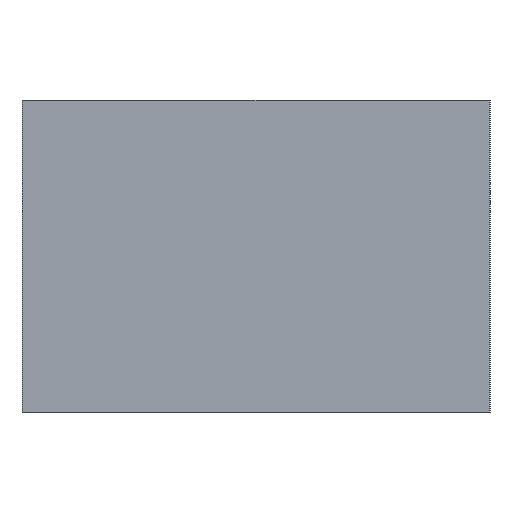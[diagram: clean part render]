
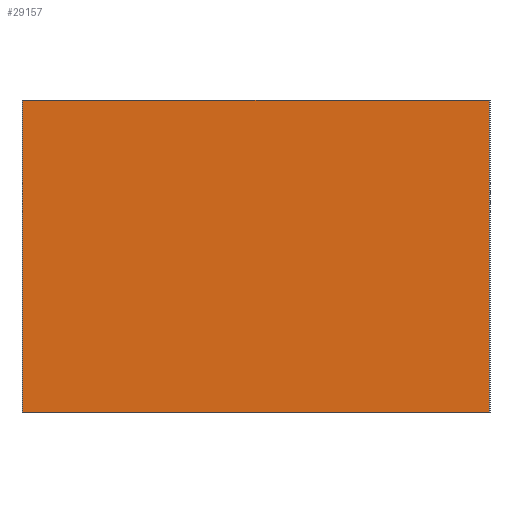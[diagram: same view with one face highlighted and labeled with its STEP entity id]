
A CAD part, front view. The second image highlights one B-rep face of the part: STEP entity #29157.
In plain terms, the highlighted planar face has unit normal (0, -1, 0).
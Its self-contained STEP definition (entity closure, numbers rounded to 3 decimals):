
#450 = CARTESIAN_POINT ( 'NONE',  ( 379.147, 239.127, 100. ) ) ;
#3054 = DIRECTION ( 'NONE',  ( 0., 1., 0. ) ) ;
#5247 = EDGE_CURVE ( 'NONE', #28114, #70171, #15248, .T. ) ;
#8043 = AXIS2_PLACEMENT_3D ( 'NONE', #68579, #3054, #29346 ) ;
#10030 = EDGE_CURVE ( 'NONE', #21948, #59930, #46235, .T. ) ;
#13458 = VECTOR ( 'NONE', #20156, 1000. ) ;
#14491 = DIRECTION ( 'NONE',  ( 1., 0., 0. ) ) ;
#15248 = LINE ( 'NONE', #59873, #30589 ) ;
#16588 = FACE_OUTER_BOUND ( 'NONE', #55339, .T. ) ;
#20156 = DIRECTION ( 'NONE',  ( 0., 0., -1. ) ) ;
#20629 = EDGE_CURVE ( 'NONE', #70171, #59930, #46068, .T. ) ;
#20632 = DIRECTION ( 'NONE',  ( 0., 0., -1. ) ) ;
#21948 = VERTEX_POINT ( 'NONE', #22309 ) ;
#22309 = CARTESIAN_POINT ( 'NONE',  ( 379.147, 239.127, 100. ) ) ;
#26604 = VECTOR ( 'NONE', #14491, 1000. ) ;
#28114 = VERTEX_POINT ( 'NONE', #33421 ) ;
#29157 = ADVANCED_FACE ( 'NONE', ( #16588 ), #61995, .F. ) ;
#29346 = DIRECTION ( 'NONE',  ( 0., 0., 1. ) ) ;
#29467 = ORIENTED_EDGE ( 'NONE', *, *, #5247, .T. ) ;
#29558 = EDGE_CURVE ( 'NONE', #28114, #21948, #34866, .T. ) ;
#30589 = VECTOR ( 'NONE', #20632, 1000. ) ;
#32123 = CARTESIAN_POINT ( 'NONE',  ( 379.147, 239.127, 0. ) ) ;
#32783 = VECTOR ( 'NONE', #74550, 1000. ) ;
#33421 = CARTESIAN_POINT ( 'NONE',  ( 229.647, 239.127, 100. ) ) ;
#34866 = LINE ( 'NONE', #74829, #32783 ) ;
#40247 = CARTESIAN_POINT ( 'NONE',  ( 229.647, 239.127, 0. ) ) ;
#43171 = ORIENTED_EDGE ( 'NONE', *, *, #20629, .T. ) ;
#46068 = LINE ( 'NONE', #40247, #26604 ) ;
#46235 = LINE ( 'NONE', #450, #13458 ) ;
#55339 = EDGE_LOOP ( 'NONE', ( #43171, #57816, #63225, #29467 ) ) ;
#57816 = ORIENTED_EDGE ( 'NONE', *, *, #10030, .F. ) ;
#59873 = CARTESIAN_POINT ( 'NONE',  ( 229.647, 239.127, 100. ) ) ;
#59930 = VERTEX_POINT ( 'NONE', #32123 ) ;
#61995 = PLANE ( 'NONE',  #8043 ) ;
#63225 = ORIENTED_EDGE ( 'NONE', *, *, #29558, .F. ) ;
#68579 = CARTESIAN_POINT ( 'NONE',  ( 229.647, 239.127, 100. ) ) ;
#70171 = VERTEX_POINT ( 'NONE', #70252 ) ;
#70252 = CARTESIAN_POINT ( 'NONE',  ( 229.647, 239.127, 0. ) ) ;
#74550 = DIRECTION ( 'NONE',  ( 1., 0., 0. ) ) ;
#74829 = CARTESIAN_POINT ( 'NONE',  ( 229.647, 239.127, 100. ) ) ;
